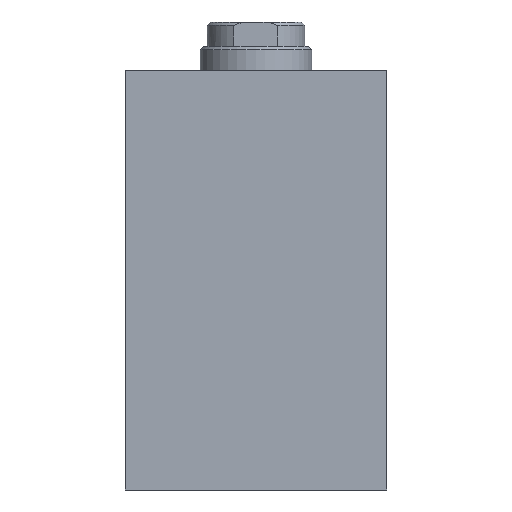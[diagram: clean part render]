
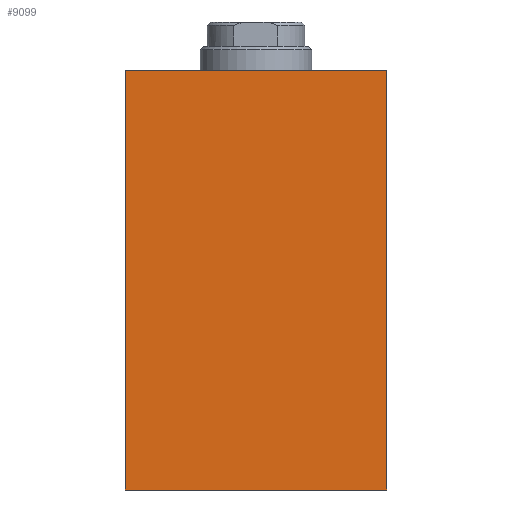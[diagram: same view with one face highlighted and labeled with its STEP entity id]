
A CAD part, front view. The second image highlights one B-rep face of the part: STEP entity #9099.
In plain terms, the highlighted planar face has unit normal (0, -1, 0).
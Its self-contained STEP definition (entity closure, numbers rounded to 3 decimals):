
#435 = CARTESIAN_POINT ( 'NONE',  ( 0., 0., 120. ) ) ;
#711 = LINE ( 'NONE', #18428, #14271 ) ;
#1492 = LINE ( 'NONE', #10763, #15780 ) ;
#2510 = CARTESIAN_POINT ( 'NONE',  ( 75., 0., 120. ) ) ;
#2942 = FACE_OUTER_BOUND ( 'NONE', #6151, .T. ) ;
#3269 = VERTEX_POINT ( 'NONE', #11352 ) ;
#4484 = ORIENTED_EDGE ( 'NONE', *, *, #6714, .T. ) ;
#5643 = DIRECTION ( 'NONE',  ( 1., 0., 0. ) ) ;
#6151 = EDGE_LOOP ( 'NONE', ( #4484, #8608, #16178, #19653 ) ) ;
#6252 = DIRECTION ( 'NONE',  ( 0., 0., -1. ) ) ;
#6714 = EDGE_CURVE ( 'NONE', #16464, #11037, #711, .T. ) ;
#7192 = CARTESIAN_POINT ( 'NONE',  ( 75., 0., 120. ) ) ;
#8598 = PLANE ( 'NONE',  #18910 ) ;
#8608 = ORIENTED_EDGE ( 'NONE', *, *, #12592, .F. ) ;
#9099 = ADVANCED_FACE ( 'NONE', ( #2942 ), #8598, .F. ) ;
#9323 = EDGE_CURVE ( 'NONE', #3269, #10928, #12149, .T. ) ;
#9781 = LINE ( 'NONE', #2510, #20496 ) ;
#10763 = CARTESIAN_POINT ( 'NONE',  ( 0., 0., 120. ) ) ;
#10928 = VERTEX_POINT ( 'NONE', #7192 ) ;
#11037 = VERTEX_POINT ( 'NONE', #14209 ) ;
#11352 = CARTESIAN_POINT ( 'NONE',  ( 0., 0., 120. ) ) ;
#12149 = LINE ( 'NONE', #13085, #14703 ) ;
#12592 = EDGE_CURVE ( 'NONE', #10928, #11037, #9781, .T. ) ;
#13085 = CARTESIAN_POINT ( 'NONE',  ( 0., 0., 120. ) ) ;
#13779 = DIRECTION ( 'NONE',  ( 0., 0., -1. ) ) ;
#14209 = CARTESIAN_POINT ( 'NONE',  ( 75., 0., 0. ) ) ;
#14271 = VECTOR ( 'NONE', #5643, 1000. ) ;
#14703 = VECTOR ( 'NONE', #16223, 1000. ) ;
#14747 = CARTESIAN_POINT ( 'NONE',  ( 0., 0., 0. ) ) ;
#15780 = VECTOR ( 'NONE', #6252, 1000. ) ;
#16178 = ORIENTED_EDGE ( 'NONE', *, *, #9323, .F. ) ;
#16223 = DIRECTION ( 'NONE',  ( 1., 0., 0. ) ) ;
#16457 = EDGE_CURVE ( 'NONE', #3269, #16464, #1492, .T. ) ;
#16464 = VERTEX_POINT ( 'NONE', #14747 ) ;
#18428 = CARTESIAN_POINT ( 'NONE',  ( 0., 0., 0. ) ) ;
#18910 = AXIS2_PLACEMENT_3D ( 'NONE', #435, #20213, #20145 ) ;
#19653 = ORIENTED_EDGE ( 'NONE', *, *, #16457, .T. ) ;
#20145 = DIRECTION ( 'NONE',  ( 0., 0., 1. ) ) ;
#20213 = DIRECTION ( 'NONE',  ( 0., 1., 0. ) ) ;
#20496 = VECTOR ( 'NONE', #13779, 1000. ) ;
